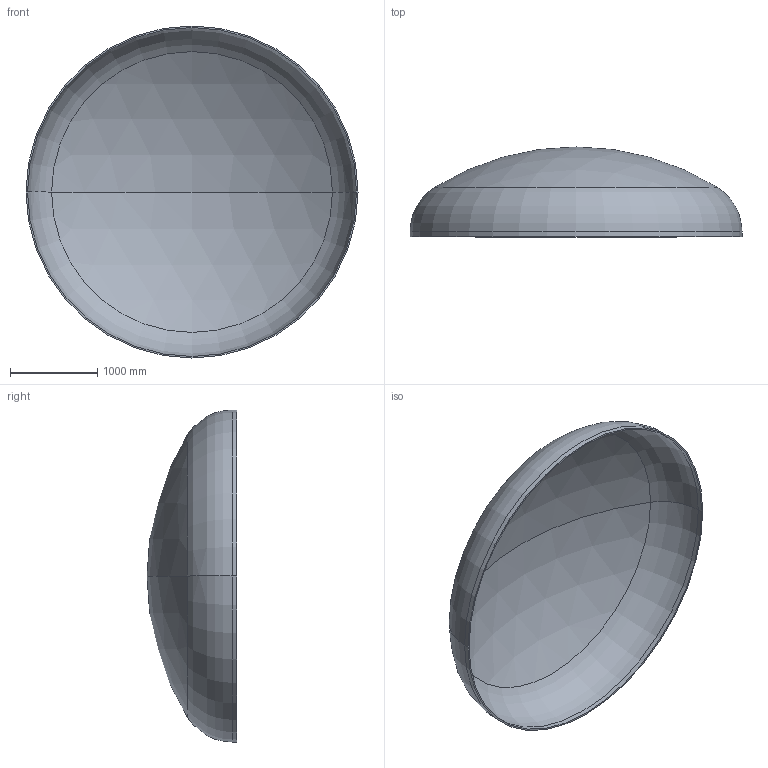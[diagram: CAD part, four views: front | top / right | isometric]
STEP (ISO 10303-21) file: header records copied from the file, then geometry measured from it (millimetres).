
FILE_DESCRIPTION (( 'STEP AP203' ), '1' );
FILE_NAME ('DIN 28013 Korbbogenform_-_Boden DIN 28013 - 3800 x 55 - I - s=17.step', '2016-07-01T21:06:27', ( '' ), ( '' ), 'SwSTEP 2.0', 'SolidWorks 2013', '' );
FILE_SCHEMA (( 'CONFIG_CONTROL_DESIGN' ));
Length unit declared in the file: millimetre
Products named in the file (1): DIN 28013 Korbbogenform_-_Boden DIN 28013 - 3800 x 55 - I - s=17
Bounding box: 3800 x 1028.2 x 3800 mm (x, y, z)
Volume: 276555974.3 mm3; surface area: 32738628.3 mm2
Topology: 1 solids, 1 shells, 13 faces, 24 edges, 14 vertices
Faces by surface type: torus 4, cylinder 4, sphere 4, plane 1
Entity records: 407 total; most frequent: DIRECTION 72, CARTESIAN_POINT 52, ORIENTED_EDGE 48, AXIS2_PLACEMENT_3D 34, EDGE_CURVE 24, CIRCLE 20, VERTEX_POINT 14, EDGE_LOOP 14
